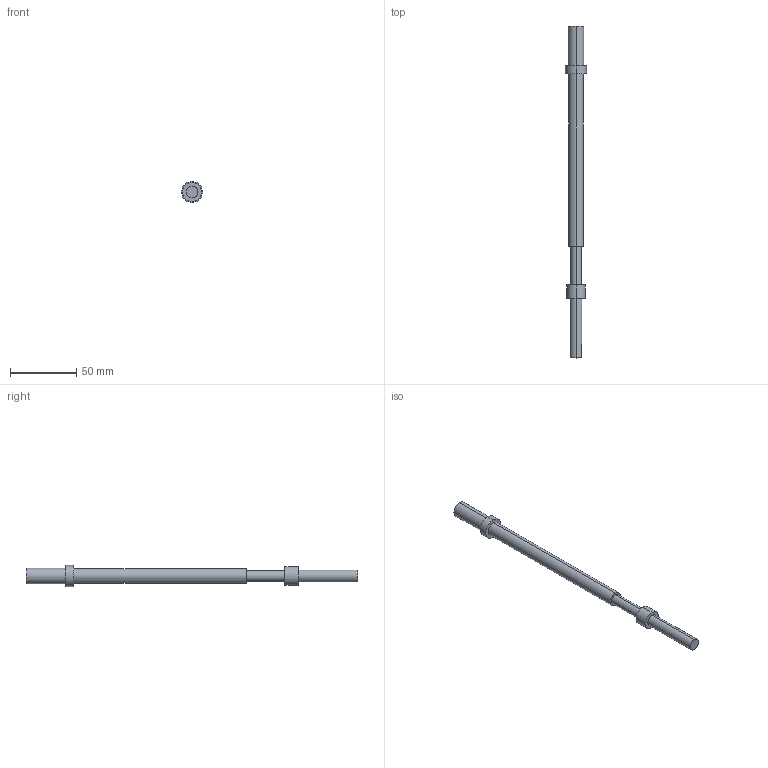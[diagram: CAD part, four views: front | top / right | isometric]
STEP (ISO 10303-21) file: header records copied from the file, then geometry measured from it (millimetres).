
FILE_DESCRIPTION (( 'STEP AP214' ), '1' );
FILE_NAME ('ee082250.STEP', '2017-04-06T08:48:37', ( '' ), ( '' ), 'SwSTEP 2.0', 'SolidWorks 2017', '' );
FILE_SCHEMA (( 'AUTOMOTIVE_DESIGN' ));
Length unit declared in the file: millimetre
Products named in the file (1): ee082250
Bounding box: 16 x 250 x 16 mm (x, y, z)
Volume: 22843.9 mm3; surface area: 8989.1 mm2
Topology: 1 solids, 1 shells, 21 faces, 42 edges, 28 vertices
Faces by surface type: cylinder 12, plane 9
Entity records: 596 total; most frequent: DIRECTION 112, CARTESIAN_POINT 92, ORIENTED_EDGE 84, AXIS2_PLACEMENT_3D 48, EDGE_CURVE 42, VERTEX_POINT 28, EDGE_LOOP 26, CIRCLE 26
